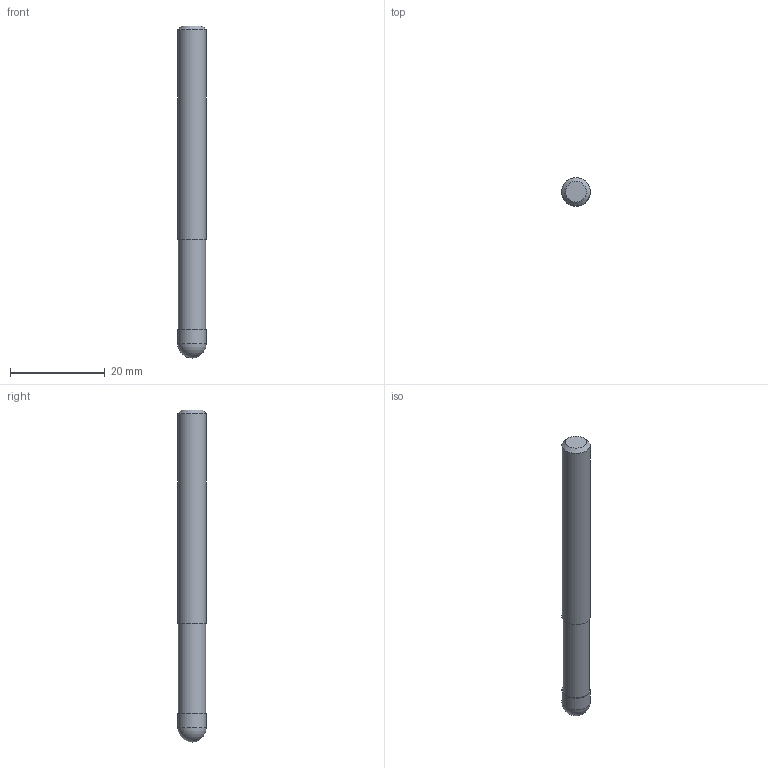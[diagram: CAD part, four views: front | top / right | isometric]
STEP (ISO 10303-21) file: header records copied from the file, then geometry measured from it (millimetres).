
FILE_DESCRIPTION((''),'2;1');
FILE_NAME('C:\Users\nsx150\AppData\Local\Temp\Mastercam 2021\ARV7HD45SN\TEMP.step','2023-06-13T16:39:49',(''),(''),'STEP Write','Mastercam 2021 ... CNC Software, Inc.','');
FILE_SCHEMA(('AUTOMOTIVE_DESIGN'));
Length unit declared in the file: millimetre
Products named in the file (1): None
Bounding box: 6 x 6 x 70 mm (x, y, z)
Volume: 1893.1 mm3; surface area: 1376.7 mm2
Topology: 2 solids, 2 shells, 9 faces, 13 edges, 8 vertices
Faces by surface type: plane 4, cylinder 3, sphere 1, cone 1
Full cylindrical faces by diameter (mm): 5.7 x1, 6 x2
Entity records: 211 total; most frequent: DIRECTION 36, CARTESIAN_POINT 25, AXIS2_PLACEMENT_3D 18, ORIENTED_EDGE 14, EDGE_LOOP 14, STYLED_ITEM 12, ADVANCED_FACE 9, FACE_BOUND 8
